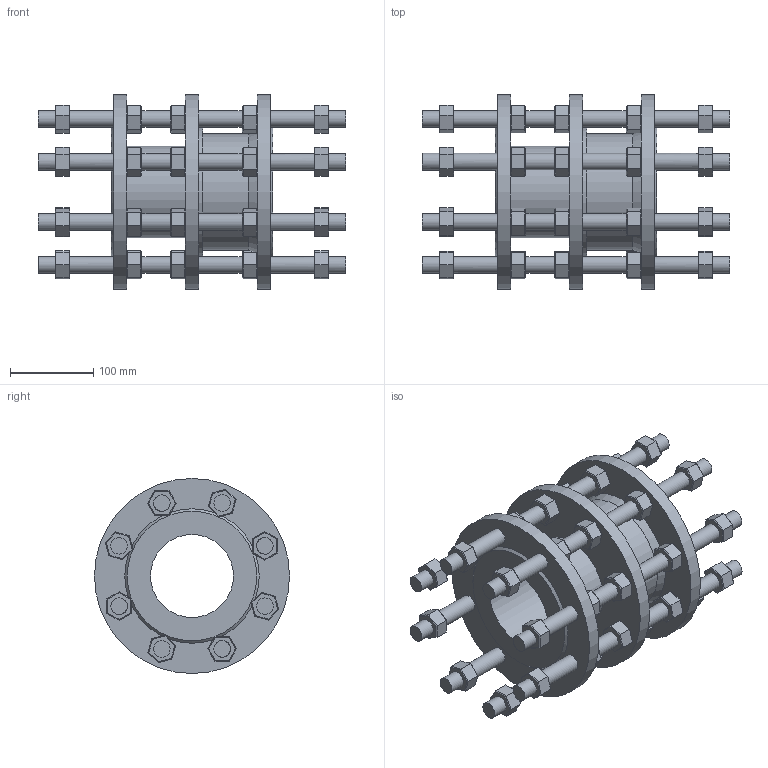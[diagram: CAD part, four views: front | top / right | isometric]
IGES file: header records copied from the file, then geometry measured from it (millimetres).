
Start section: SolidWorks IGES file using analytic representation for surfaces
Global section: file name: X:\AR\CV\873\873-0100-00-741000\873010000741000.IGS; native system: SolidWorks 2020; preprocessor: SolidWorks 2020; author: m.lucatello; date: 211105.091502; units: millimetre
Bounding box: 370 x 235 x 235 mm (x, y, z)
Surface area: 650119.3 mm2 (no closed solid volume)
Topology: 0 solids, 0 shells, 987 faces, 4038 edges, 3876 vertices
Faces by surface type: bspline 825, revolution 162
